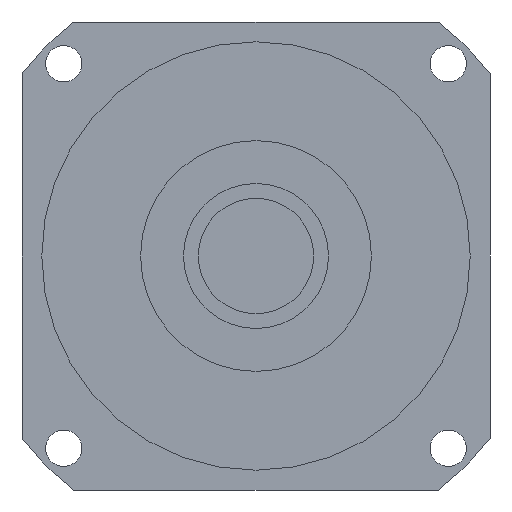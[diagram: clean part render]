
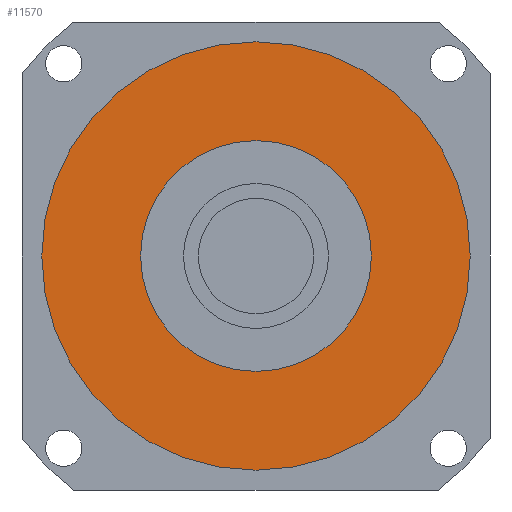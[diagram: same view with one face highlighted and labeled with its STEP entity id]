
A CAD part, left-side view. The second image highlights one B-rep face of the part: STEP entity #11570.
In plain terms, the highlighted planar face has unit normal (-1, 0, 0) as drawn and (0, 0, -1) by its records, which use the part's own axes.
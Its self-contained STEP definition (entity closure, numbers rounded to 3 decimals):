
#11010=CARTESIAN_POINT('',(-35.,0.,-80.2));
#11020=VERTEX_POINT('',#11010);
#11050=CARTESIAN_POINT('',(0.,0.,
-80.2));
#11060=DIRECTION('',(0.,0.,1.));
#11070=DIRECTION('',(0.,1.,0.));
#11080=AXIS2_PLACEMENT_3D('',#11050,#11060,#11070);
#11090=CIRCLE('',#11080,35.);
#11100=CARTESIAN_POINT('',(35.,0.,-80.2));
#11110=VERTEX_POINT('',#11100);
#11120=EDGE_CURVE('',#11020,#11110,#11090,.T.);
#11240=CARTESIAN_POINT('',(0.,0.,
-80.2));
#11250=DIRECTION('',(0.,0.,1.));
#11260=DIRECTION('',(-1.,0.,0.));
#11270=AXIS2_PLACEMENT_3D('',#11240,#11250,#11260);
#11280=PLANE('',#11270);
#11290=ORIENTED_EDGE('',*,*,#11120,.T.);
#11300=CARTESIAN_POINT('',(0.,35.,-80.2));
#11310=VERTEX_POINT('',#11300);
#11320=EDGE_CURVE('',#11310,#11020,#11090,.T.);
#11330=ORIENTED_EDGE('',*,*,#11320,.T.);
#11340=EDGE_CURVE('',#11110,#11310,#11090,.T.);
#11350=ORIENTED_EDGE('',*,*,#11340,.T.);
#11360=EDGE_LOOP('',(#11350,#11330,#11290));
#11370=FACE_BOUND('',#11360,.T.);
#11380=CARTESIAN_POINT('',(0.,0.,
-80.2));
#11390=DIRECTION('',(0.,0.,1.));
#11400=DIRECTION('',(0.,1.,0.));
#11410=AXIS2_PLACEMENT_3D('',#11380,#11390,#11400);
#11420=CIRCLE('',#11410,65.);
#11430=CARTESIAN_POINT('',(0.,65.,-80.2));
#11440=VERTEX_POINT('',#11430);
#11450=CARTESIAN_POINT('',(-65.,0.,-80.2));
#11460=VERTEX_POINT('',#11450);
#11470=EDGE_CURVE('',#11440,#11460,#11420,.T.);
#11480=ORIENTED_EDGE('',*,*,#11470,.F.);
#11490=CARTESIAN_POINT('',(65.,0.,-80.2));
#11500=VERTEX_POINT('',#11490);
#11510=EDGE_CURVE('',#11460,#11500,#11420,.T.);
#11520=ORIENTED_EDGE('',*,*,#11510,.F.);
#11530=EDGE_CURVE('',#11500,#11440,#11420,.T.);
#11540=ORIENTED_EDGE('',*,*,#11530,.F.);
#11550=EDGE_LOOP('',(#11540,#11520,#11480));
#11560=FACE_OUTER_BOUND('',#11550,.T.);
#11570=ADVANCED_FACE('',(#11370,#11560),#11280,.F.);
